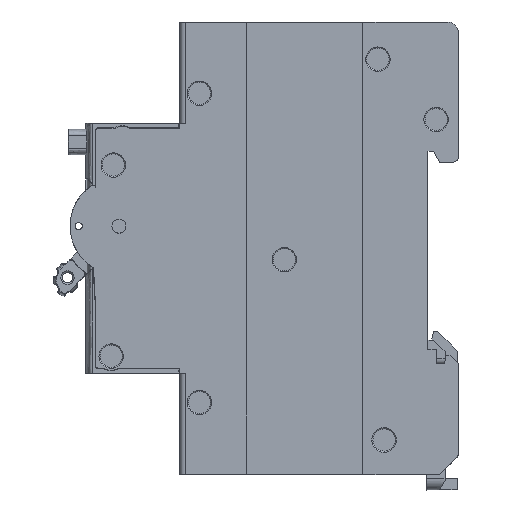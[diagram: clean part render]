
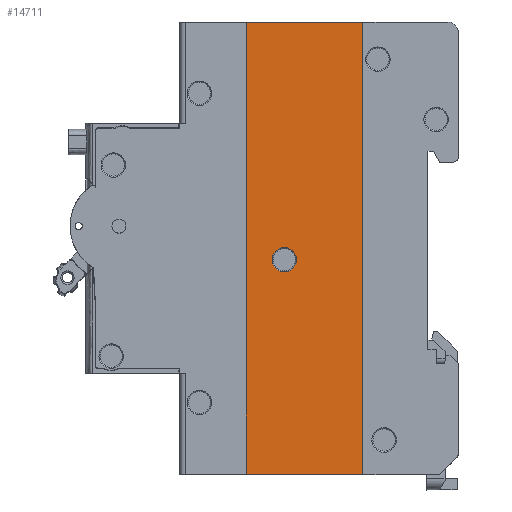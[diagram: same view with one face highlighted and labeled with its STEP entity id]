
A CAD part, front view. The second image highlights one B-rep face of the part: STEP entity #14711.
In plain terms, the highlighted planar face has unit normal (0, -1, 0) as drawn and (1, 0, 0) by its records, which use the part's own axes.
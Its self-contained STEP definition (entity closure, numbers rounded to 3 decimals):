
#667 = VECTOR ( 'NONE', #19253, 1000. ) ;
#1535 = VERTEX_POINT ( 'NONE', #4166 ) ;
#3038 = FACE_BOUND ( 'NONE', #102765, .T. ) ;
#4166 = CARTESIAN_POINT ( 'NONE',  ( 34.4, 0., -33.005 ) ) ;
#4876 = AXIS2_PLACEMENT_3D ( 'NONE', #76710, #48511, #59491 ) ;
#6070 = CIRCLE ( 'NONE', #74675, 2.2 ) ;
#6522 = VECTOR ( 'NONE', #99730, 1000. ) ;
#6573 = CARTESIAN_POINT ( 'NONE',  ( 34.4, 0.25, -12.005 ) ) ;
#7184 = DIRECTION ( 'NONE',  ( 0., 1., 0. ) ) ;
#9926 = EDGE_LOOP ( 'NONE', ( #26072, #81794, #95317, #71896, #119122, #89706, #95598 ) ) ;
#10430 = VERTEX_POINT ( 'NONE', #6573 ) ;
#12641 = DIRECTION ( 'NONE',  ( 0., -1., 0. ) ) ;
#13650 = CARTESIAN_POINT ( 'NONE',  ( 34.4, 60.254, -12.005 ) ) ;
#13844 = EDGE_CURVE ( 'NONE', #74928, #10430, #115094, .T. ) ;
#14043 = CARTESIAN_POINT ( 'NONE',  ( 34.4, 36.523, -18.864 ) ) ;
#14711 = ADVANCED_FACE ( 'NONE', ( #3038, #49094 ), #49718, .T. ) ;
#17117 = CARTESIAN_POINT ( 'NONE',  ( 34.4, 40.923, -18.864 ) ) ;
#19253 = DIRECTION ( 'NONE',  ( 0., -1., 0. ) ) ;
#19544 = ORIENTED_EDGE ( 'NONE', *, *, #119330, .T. ) ;
#19816 = DIRECTION ( 'NONE',  ( -1., 0., 0. ) ) ;
#21034 = CARTESIAN_POINT ( 'NONE',  ( 34.4, 38.723, -18.864 ) ) ;
#21300 = CARTESIAN_POINT ( 'NONE',  ( 34.4, 0., -12.005 ) ) ;
#22691 = EDGE_CURVE ( 'NONE', #117326, #10430, #119262, .T. ) ;
#26072 = ORIENTED_EDGE ( 'NONE', *, *, #76199, .T. ) ;
#26369 = LINE ( 'NONE', #63797, #75630 ) ;
#28920 = EDGE_CURVE ( 'NONE', #118811, #77019, #41663, .T. ) ;
#30123 = CARTESIAN_POINT ( 'NONE',  ( 34.4, 38.723, -18.864 ) ) ;
#30863 = DIRECTION ( 'NONE',  ( 0., 0., -1. ) ) ;
#31840 = EDGE_CURVE ( 'NONE', #58880, #74928, #86871, .T. ) ;
#32172 = EDGE_CURVE ( 'NONE', #77019, #58880, #75761, .T. ) ;
#33548 = VECTOR ( 'NONE', #7184, 1000. ) ;
#37088 = AXIS2_PLACEMENT_3D ( 'NONE', #21034, #19816, #30863 ) ;
#38274 = CARTESIAN_POINT ( 'NONE',  ( 34.4, 81.5, -33.005 ) ) ;
#41663 = LINE ( 'NONE', #77918, #110280 ) ;
#41802 = VECTOR ( 'NONE', #12641, 1000. ) ;
#42217 = CARTESIAN_POINT ( 'NONE',  ( 34.4, 25.254, -33.005 ) ) ;
#42347 = CARTESIAN_POINT ( 'NONE',  ( 34.4, 21.254, -12.005 ) ) ;
#48511 = DIRECTION ( 'NONE',  ( 1., 0., 0. ) ) ;
#49094 = FACE_OUTER_BOUND ( 'NONE', #9926, .T. ) ;
#49718 = PLANE ( 'NONE',  #4876 ) ;
#52279 = VERTEX_POINT ( 'NONE', #14043 ) ;
#53581 = CARTESIAN_POINT ( 'NONE',  ( 34.4, 81.5, -12.005 ) ) ;
#54369 = CARTESIAN_POINT ( 'NONE',  ( 34.4, 21.254, -12.005 ) ) ;
#55513 = ORIENTED_EDGE ( 'NONE', *, *, #118078, .T. ) ;
#58686 = CIRCLE ( 'NONE', #37088, 2.2 ) ;
#58880 = VERTEX_POINT ( 'NONE', #13650 ) ;
#59491 = DIRECTION ( 'NONE',  ( 0., 1., 0. ) ) ;
#63797 = CARTESIAN_POINT ( 'NONE',  ( 34.4, 0., -8.505 ) ) ;
#65953 = CARTESIAN_POINT ( 'NONE',  ( 34.4, 81.25, -12.005 ) ) ;
#67532 = DIRECTION ( 'NONE',  ( 0., 0., 1. ) ) ;
#67612 = DIRECTION ( 'NONE',  ( 0., 0., -1. ) ) ;
#68737 = VECTOR ( 'NONE', #118672, 1000. ) ;
#71896 = ORIENTED_EDGE ( 'NONE', *, *, #31840, .T. ) ;
#74675 = AXIS2_PLACEMENT_3D ( 'NONE', #30123, #104321, #67612 ) ;
#74928 = VERTEX_POINT ( 'NONE', #42347 ) ;
#75630 = VECTOR ( 'NONE', #121387, 1000. ) ;
#75761 = LINE ( 'NONE', #65953, #667 ) ;
#76199 = EDGE_CURVE ( 'NONE', #1535, #118811, #108419, .T. ) ;
#76710 = CARTESIAN_POINT ( 'NONE',  ( 34.4, 25.254, -8.505 ) ) ;
#77019 = VERTEX_POINT ( 'NONE', #53581 ) ;
#77918 = CARTESIAN_POINT ( 'NONE',  ( 34.4, 81.5, -8.505 ) ) ;
#81794 = ORIENTED_EDGE ( 'NONE', *, *, #28920, .T. ) ;
#86871 = LINE ( 'NONE', #106441, #41802 ) ;
#89706 = ORIENTED_EDGE ( 'NONE', *, *, #22691, .F. ) ;
#91047 = CARTESIAN_POINT ( 'NONE',  ( 34.4, 0.05, -12.005 ) ) ;
#94115 = VERTEX_POINT ( 'NONE', #17117 ) ;
#94881 = EDGE_CURVE ( 'NONE', #117326, #1535, #26369, .T. ) ;
#95317 = ORIENTED_EDGE ( 'NONE', *, *, #32172, .T. ) ;
#95598 = ORIENTED_EDGE ( 'NONE', *, *, #94881, .T. ) ;
#99730 = DIRECTION ( 'NONE',  ( 0., -1., 0. ) ) ;
#102765 = EDGE_LOOP ( 'NONE', ( #19544, #55513 ) ) ;
#104321 = DIRECTION ( 'NONE',  ( -1., 0., 0. ) ) ;
#106441 = CARTESIAN_POINT ( 'NONE',  ( 34.4, 19.795, -12.005 ) ) ;
#108419 = LINE ( 'NONE', #42217, #33548 ) ;
#110280 = VECTOR ( 'NONE', #67532, 1000. ) ;
#115094 = LINE ( 'NONE', #54369, #6522 ) ;
#117326 = VERTEX_POINT ( 'NONE', #21300 ) ;
#118078 = EDGE_CURVE ( 'NONE', #52279, #94115, #58686, .T. ) ;
#118672 = DIRECTION ( 'NONE',  ( 0., 1., 0. ) ) ;
#118811 = VERTEX_POINT ( 'NONE', #38274 ) ;
#119122 = ORIENTED_EDGE ( 'NONE', *, *, #13844, .T. ) ;
#119262 = LINE ( 'NONE', #91047, #68737 ) ;
#119330 = EDGE_CURVE ( 'NONE', #94115, #52279, #6070, .T. ) ;
#121387 = DIRECTION ( 'NONE',  ( 0., 0., -1. ) ) ;
